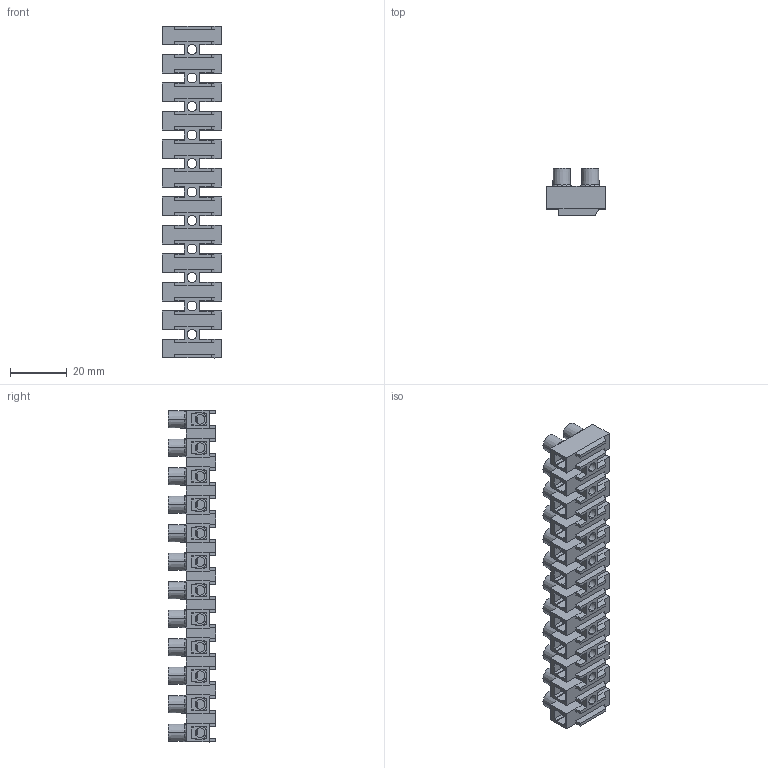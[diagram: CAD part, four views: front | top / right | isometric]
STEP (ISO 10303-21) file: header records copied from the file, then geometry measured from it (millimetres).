
FILE_DESCRIPTION (( 'STEP AP214' ), '1' );
FILE_NAME ('323-FU-16.5-HDS-12.STEP', '2008-03-10T20:53:34', ( 'weco' ), ( 'weco' ), 'SwSTEP 2.0', 'SolidWorks 2007', '' );
FILE_SCHEMA (( 'AUTOMOTIVE_DESIGN' ));
Length unit declared in the file: millimetre
Products named in the file (1): 323-FU-16.5-HDS-12
Bounding box: 21 x 16.5 x 116.5 mm (x, y, z)
Volume: 16177.5 mm3; surface area: 19907.6 mm2
Topology: 1 solids, 1 shells, 2404 faces, 6451 edges, 4193 vertices
Faces by surface type: plane 1698, cylinder 358, cone 180, bspline 168
Entity records: 80975 total; most frequent: CARTESIAN_POINT 21763, ORIENTED_EDGE 12902, DIRECTION 11593, EDGE_CURVE 6451, VECTOR 4655, LINE 4655, VERTEX_POINT 4193, AXIS2_PLACEMENT_3D 3469
